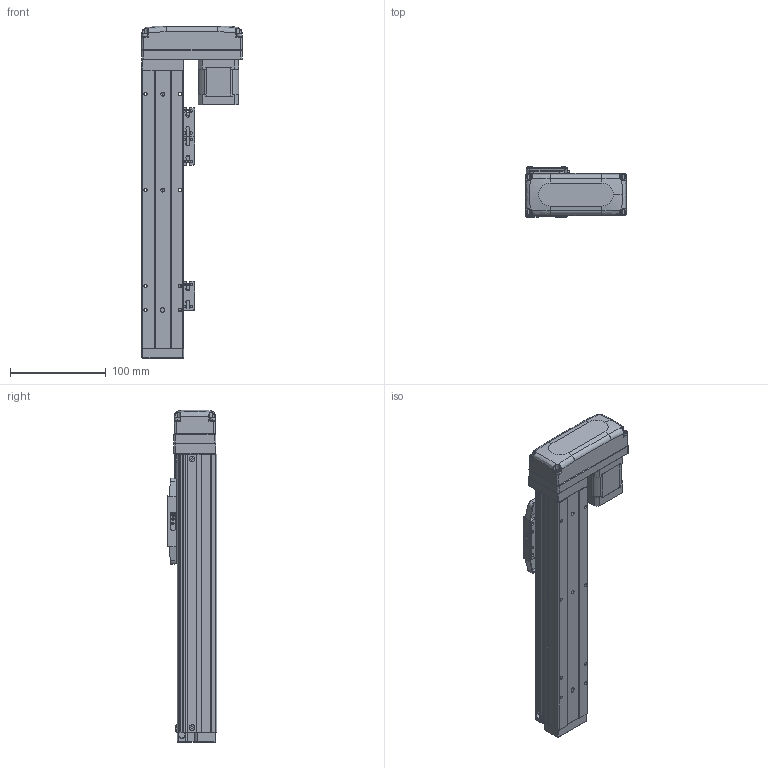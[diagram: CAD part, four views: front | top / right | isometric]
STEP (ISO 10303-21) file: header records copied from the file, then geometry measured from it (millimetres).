
FILE_DESCRIPTION (( 'STEP AP203' ), '1' );
FILE_NAME ('GTH4-150-BL-B42-C4.step', '2023-02-14T00:17:40', ( '微软用户' ), ( '微软中国' ), 'SwSTEP 2.0', 'SolidWorks 2020', '' );
FILE_SCHEMA (( 'CONFIG_CONTROL_DESIGN' ));
Length unit declared in the file: millimetre
Products named in the file (19): GTH4-150-BL-B42-C4; BTH50-028; BTH40-004; BTH50-023; BTH40-013; BTH40-001-50_BTH40-001-150; BTH50-024; GBT 70.3-M3℅6; BTH40-003; GBT 70.1-M3℅6; BTH40-027-1; BTH40-006; GBT96.1-2002 3×0.8; BTH50-026; BTH-M3X5X6; BTH40-022; 42CM06; GBT70.1-2000 M3×16; GBT 70.1-M2.5×6
Assembly tree (47 placements, depth 2):
  GTH4-150-BL-B42-C4
    BTH40-001-50_BTH40-001-150
    BTH40-003
    BTH40-006
    BTH-M3X5X6  x8
    GBT70.1-2000 M3×16  x4
    BTH50-028  x2
    BTH50-023  x3
    BTH50-024  x3
    GBT 70.1-M3℅6  x6
    GBT96.1-2002 3×0.8  x6
    BTH40-022
    GBT 70.1-M2.5×6  x2
    BTH40-004
    BTH40-013
    GBT 70.3-M3℅6  x4
    BTH40-027-1
    BTH50-026
    42CM06
Bounding box: 105 x 52 x 346 mm (x, y, z)
Volume: 708765.5 mm3; surface area: 168538.8 mm2
Topology: 56 solids, 56 shells, 3307 faces, 7708 edges, 4610 vertices
Faces by surface type: cone 1488, plane 1076, cylinder 565, torus 124, bspline 42, sphere 12
Entity records: 77094 total; most frequent: CARTESIAN_POINT 13913, DIRECTION 13689, ORIENTED_EDGE 12062, EDGE_CURVE 6031, AXIS2_PLACEMENT_3D 5249, VERTEX_POINT 3597, LINE 3191, VECTOR 3191
